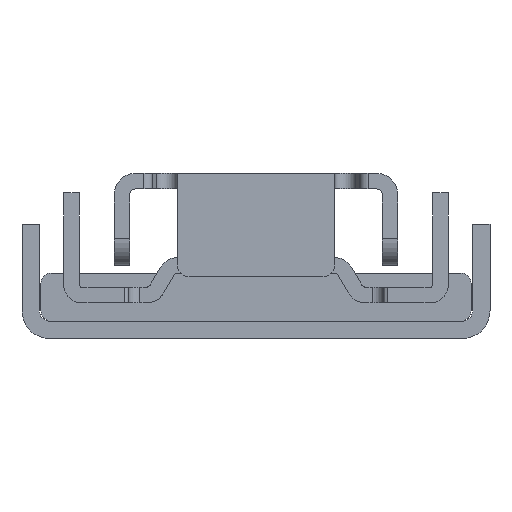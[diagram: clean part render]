
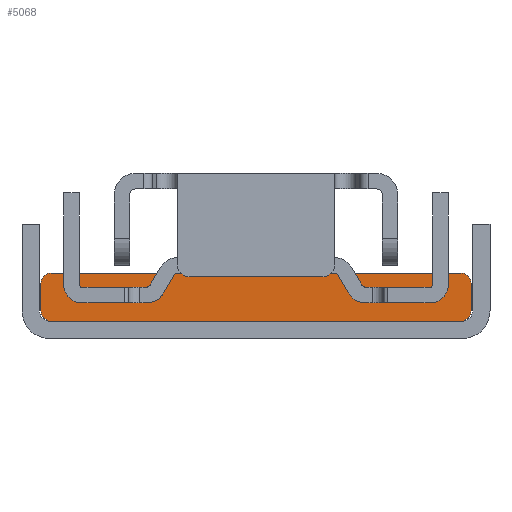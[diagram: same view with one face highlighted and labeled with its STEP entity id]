
A CAD part, front view. The second image highlights one B-rep face of the part: STEP entity #5068.
In plain terms, the highlighted planar face has unit normal (0, -1, 0) as drawn and (-1, 0, 0) by its records, which use the part's own axes.
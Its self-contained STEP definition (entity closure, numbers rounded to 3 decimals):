
#4892=DIRECTION('',(0.,0.,1.));
#4893=VECTOR('',#4892,46.6);
#4894=CARTESIAN_POINT('',(-48.7,0.,-23.3));
#4895=LINE('',#4894,#4893);
#4896=CARTESIAN_POINT('',(-48.7,4.3,23.3));
#4897=DIRECTION('',(-1.,0.,0.));
#4898=DIRECTION('',(0.,0.,1.));
#4899=AXIS2_PLACEMENT_3D('',#4896,#4897,#4898);
#4901=CARTESIAN_POINT('',(-48.7,1.2,23.3));
#4902=DIRECTION('',(-1.,0.,0.));
#4903=DIRECTION('',(0.,-1.,0.));
#4904=AXIS2_PLACEMENT_3D('',#4901,#4902,#4903);
#4906=CARTESIAN_POINT('',(-48.7,1.2,-23.3));
#4907=DIRECTION('',(-1.,0.,0.));
#4908=DIRECTION('',(0.,0.,-1.));
#4909=AXIS2_PLACEMENT_3D('',#4906,#4907,#4908);
#4911=DIRECTION('',(0.,1.,0.));
#4912=VECTOR('',#4911,3.1);
#4913=CARTESIAN_POINT('',(-48.7,1.2,-24.5));
#4914=LINE('',#4913,#4912);
#4915=CARTESIAN_POINT('',(-48.7,4.3,-23.3));
#4916=DIRECTION('',(-1.,0.,0.));
#4917=DIRECTION('',(0.,1.,0.));
#4918=AXIS2_PLACEMENT_3D('',#4915,#4916,#4917);
#4948=DIRECTION('',(0.,0.,1.));
#4949=VECTOR('',#4948,46.6);
#4950=CARTESIAN_POINT('',(-48.7,5.5,-23.3));
#4951=LINE('',#4950,#4949);
#4980=DIRECTION('',(0.,1.,0.));
#4981=VECTOR('',#4980,3.1);
#4982=CARTESIAN_POINT('',(-48.7,1.2,24.5));
#4983=LINE('',#4982,#4981);
#4988=CARTESIAN_POINT('',(-48.7,4.3,24.5));
#4989=VERTEX_POINT('',#4988);
#4990=CARTESIAN_POINT('',(-48.7,5.5,23.3));
#4991=VERTEX_POINT('',#4990);
#4992=CARTESIAN_POINT('',(-48.7,0.,23.3));
#4993=CARTESIAN_POINT('',(-48.7,1.2,24.5));
#4994=VERTEX_POINT('',#4992);
#4995=VERTEX_POINT('',#4993);
#5000=CARTESIAN_POINT('',(-48.7,5.5,-23.3));
#5001=CARTESIAN_POINT('',(-48.7,4.3,-24.5));
#5002=VERTEX_POINT('',#5000);
#5003=VERTEX_POINT('',#5001);
#5012=CARTESIAN_POINT('',(-48.7,1.2,-24.5));
#5013=VERTEX_POINT('',#5012);
#5014=CARTESIAN_POINT('',(-48.7,0.,-23.3));
#5015=VERTEX_POINT('',#5014);
#5047=CARTESIAN_POINT('',(-48.7,0.,-24.5));
#5048=DIRECTION('',(-1.,0.,0.));
#5049=DIRECTION('',(0.,0.,1.));
#5050=AXIS2_PLACEMENT_3D('',#5047,#5048,#5049);
#5051=PLANE('',#5050);
#5053=ORIENTED_EDGE('',*,*,#5052,.F.);
#5055=ORIENTED_EDGE('',*,*,#5054,.F.);
#5056=ORIENTED_EDGE('',*,*,#5037,.F.);
#5057=ORIENTED_EDGE('',*,*,#5027,.F.);
#5059=ORIENTED_EDGE('',*,*,#5058,.F.);
#5061=ORIENTED_EDGE('',*,*,#5060,.T.);
#5063=ORIENTED_EDGE('',*,*,#5062,.F.);
#5065=ORIENTED_EDGE('',*,*,#5064,.T.);
#5066=EDGE_LOOP('',(#5053,#5055,#5056,#5057,#5059,#5061,#5063,#5065));
#5067=FACE_OUTER_BOUND('',#5066,.F.);
#5068=ADVANCED_FACE('',(#5067),#5051,.T.);
#4900=CIRCLE('',#4899,1.2);
#4905=CIRCLE('',#4904,1.2);
#4910=CIRCLE('',#4909,1.2);
#4919=CIRCLE('',#4918,1.2);
#5027=EDGE_CURVE('',#5015,#4994,#4895,.T.);
#5037=EDGE_CURVE('',#4994,#4995,#4905,.T.);
#5052=EDGE_CURVE('',#4989,#4991,#4900,.T.);
#5054=EDGE_CURVE('',#4995,#4989,#4983,.T.);
#5058=EDGE_CURVE('',#5013,#5015,#4910,.T.);
#5060=EDGE_CURVE('',#5013,#5003,#4914,.T.);
#5062=EDGE_CURVE('',#5002,#5003,#4919,.T.);
#5064=EDGE_CURVE('',#5002,#4991,#4951,.T.);
